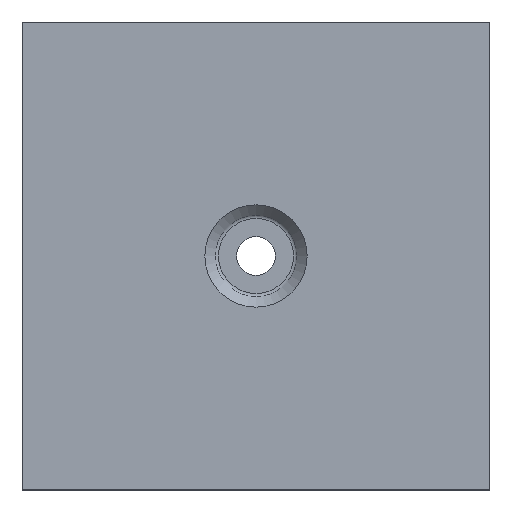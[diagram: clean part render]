
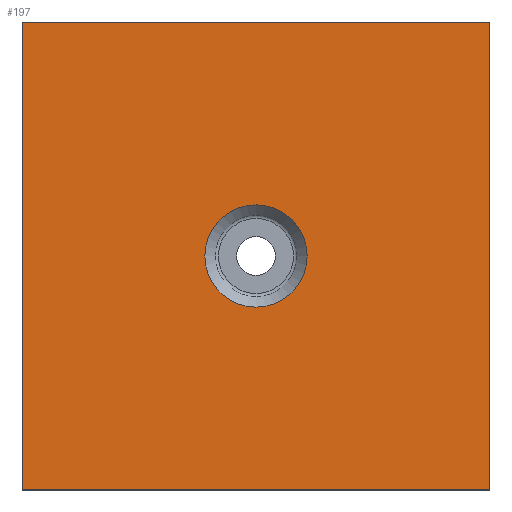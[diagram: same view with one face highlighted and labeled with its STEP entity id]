
A CAD part, top view. The second image highlights one B-rep face of the part: STEP entity #197.
In plain terms, the highlighted planar face has unit normal (0, 0, 1).
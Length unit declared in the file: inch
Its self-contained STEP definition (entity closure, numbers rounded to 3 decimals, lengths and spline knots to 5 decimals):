
#24=CARTESIAN_POINT('',(1.705,10.392,0.));
#25=VERTEX_POINT('',#24);
#26=CARTESIAN_POINT('',(3.705,10.392,0.));
#27=VERTEX_POINT('',#26);
#28=CARTESIAN_POINT('',(18.82767,10.392,0.));
#29=DIRECTION('',(1.,0.,0.));
#30=VECTOR('',#29,1.);
#31=LINE('',#28,#30);
#32=EDGE_CURVE('',#25,#27,#31,.T.);
#107=CARTESIAN_POINT('',(1.705,12.392,0.));
#108=VERTEX_POINT('',#107);
#109=CARTESIAN_POINT('',(1.705,21.9831,0.));
#110=DIRECTION('',(0.,-1.,0.));
#111=VECTOR('',#110,1.);
#112=LINE('',#109,#111);
#113=EDGE_CURVE('',#108,#25,#112,.T.);
#131=CARTESIAN_POINT('',(3.705,12.392,0.));
#132=VERTEX_POINT('',#131);
#133=CARTESIAN_POINT('',(44.23629,12.392,0.));
#134=DIRECTION('',(-1.,0.,0.));
#135=VECTOR('',#134,1.);
#136=LINE('',#133,#135);
#137=EDGE_CURVE('',#132,#108,#136,.T.);
#156=CARTESIAN_POINT('',(3.705,28.51672,0.));
#157=DIRECTION('',(0.,1.,0.));
#158=VECTOR('',#157,1.);
#159=LINE('',#156,#158);
#160=EDGE_CURVE('',#27,#132,#159,.T.);
#171=ORIENTED_EDGE('',*,*,#160,.T.);
#172=ORIENTED_EDGE('',*,*,#137,.T.);
#173=ORIENTED_EDGE('',*,*,#113,.T.);
#174=ORIENTED_EDGE('',*,*,#32,.T.);
#175=EDGE_LOOP('',(#171,#172,#173,#174));
#176=FACE_OUTER_BOUND('',#175,.T.);
#177=CARTESIAN_POINT('',(2.705,11.1735,0.));
#178=VERTEX_POINT('',#177);
#179=CARTESIAN_POINT('',(2.705,11.6105,0.));
#180=VERTEX_POINT('',#179);
#181=CARTESIAN_POINT('',(2.705,11.392,0.));
#182=DIRECTION('',(0.,0.,-1.));
#183=DIRECTION('',(0.,1.,0.));
#184=AXIS2_PLACEMENT_3D('',#181,#182,#183);
#185=CIRCLE('',#184,0.2185);
#186=EDGE_CURVE('',#178,#180,#185,.T.);
#187=ORIENTED_EDGE('',*,*,#186,.T.);
#188=EDGE_CURVE('',#180,#178,#185,.T.);
#189=ORIENTED_EDGE('',*,*,#188,.T.);
#190=EDGE_LOOP('',(#187,#189));
#191=FACE_BOUND('',#190,.T.);
#192=CARTESIAN_POINT('',(-9.3835,4.505,0.));
#193=DIRECTION('',(0.,0.,-1.));
#194=DIRECTION('',(1.,0.,0.));
#195=AXIS2_PLACEMENT_3D('',#192,#193,#194);
#196=PLANE('',#195);
#197=ADVANCED_FACE('',(#176,#191),#196,.F.);
